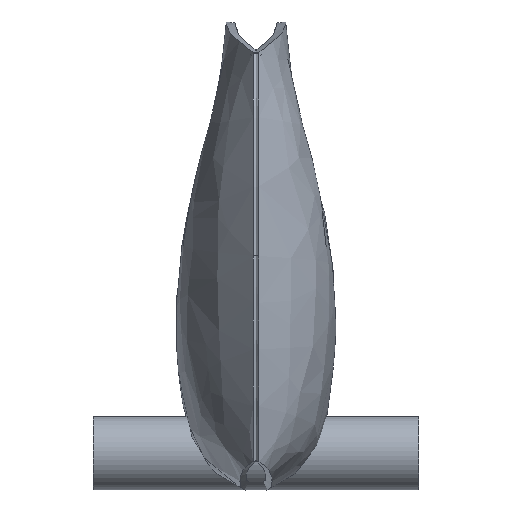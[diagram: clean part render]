
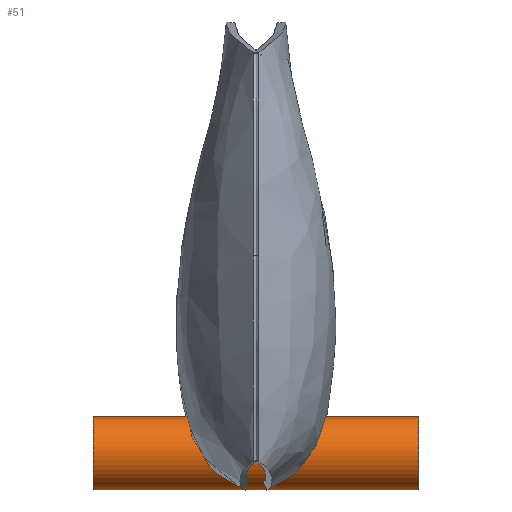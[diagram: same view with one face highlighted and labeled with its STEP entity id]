
A CAD part, left-side view. The second image highlights one B-rep face of the part: STEP entity #51.
In plain terms, the highlighted free-form (B-spline) face has degree [2, 1] with [5, 2] control points.
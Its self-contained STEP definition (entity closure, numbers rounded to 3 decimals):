
#11=(
BOUNDED_CURVE()
B_SPLINE_CURVE(2,(#9895,#9896,#9897,#9898,#9899),.UNSPECIFIED.,.F.,.F.)
B_SPLINE_CURVE_WITH_KNOTS((3,2,3),(0.,59.022,118.044),
 .UNSPECIFIED.)
CURVE()
GEOMETRIC_REPRESENTATION_ITEM()
RATIONAL_B_SPLINE_CURVE((1.,0.707,1.,0.707,1.))
REPRESENTATION_ITEM('')
);
#12=(
BOUNDED_CURVE()
B_SPLINE_CURVE(1,(#9900,#9901),.UNSPECIFIED.,.F.,.F.)
B_SPLINE_CURVE_WITH_KNOTS((2,2),(0.,337.834),.UNSPECIFIED.)
CURVE()
GEOMETRIC_REPRESENTATION_ITEM()
RATIONAL_B_SPLINE_CURVE((1.,1.))
REPRESENTATION_ITEM('')
);
#13=(
BOUNDED_CURVE()
B_SPLINE_CURVE(2,(#9902,#9903,#9904,#9905,#9906),.UNSPECIFIED.,.F.,.F.)
B_SPLINE_CURVE_WITH_KNOTS((3,2,3),(0.,59.022,118.044),
 .UNSPECIFIED.)
CURVE()
GEOMETRIC_REPRESENTATION_ITEM()
RATIONAL_B_SPLINE_CURVE((1.,0.707,1.,0.707,1.))
REPRESENTATION_ITEM('')
);
#14=(
BOUNDED_CURVE()
B_SPLINE_CURVE(1,(#9907,#9908),.UNSPECIFIED.,.F.,.F.)
B_SPLINE_CURVE_WITH_KNOTS((2,2),(0.,337.834),.UNSPECIFIED.)
CURVE()
GEOMETRIC_REPRESENTATION_ITEM()
RATIONAL_B_SPLINE_CURVE((1.,1.))
REPRESENTATION_ITEM('')
);
#19=(
BOUNDED_SURFACE()
B_SPLINE_SURFACE(2,1,((#9869,#9870),(#9871,#9872),(#9873,#9874),(#9875,
#9876),(#9877,#9878)),.UNSPECIFIED.,.F.,.F.,.F.)
B_SPLINE_SURFACE_WITH_KNOTS((3,2,3),(2,2),(0.,59.022,118.044),
(0.,337.834),.UNSPECIFIED.)
GEOMETRIC_REPRESENTATION_ITEM()
RATIONAL_B_SPLINE_SURFACE(((1.,1.),(0.707,0.707),
(1.,1.),(0.707,0.707),(1.,1.)))
REPRESENTATION_ITEM('')
SURFACE()
);
#51=ADVANCED_FACE('',(#75),#19,.T.);
#75=FACE_OUTER_BOUND('',#99,.T.);
#99=EDGE_LOOP('',(#199,#200,#201,#202));
#199=ORIENTED_EDGE('',*,*,#262,.T.);
#200=ORIENTED_EDGE('',*,*,#261,.F.);
#201=ORIENTED_EDGE('',*,*,#260,.F.);
#202=ORIENTED_EDGE('',*,*,#259,.T.);
#259=EDGE_CURVE('',#345,#347,#11,.T.);
#260=EDGE_CURVE('',#345,#346,#12,.T.);
#261=EDGE_CURVE('',#346,#348,#13,.T.);
#262=EDGE_CURVE('',#347,#348,#14,.T.);
#345=VERTEX_POINT('',#9891);
#346=VERTEX_POINT('',#9892);
#347=VERTEX_POINT('',#9893);
#348=VERTEX_POINT('',#9894);
#9869=CARTESIAN_POINT('',(15678.526,-2216.437,40.404));
#9870=CARTESIAN_POINT('',(15678.526,-2396.437,40.404));
#9871=CARTESIAN_POINT('',(15658.331,-2216.437,40.404));
#9872=CARTESIAN_POINT('',(15658.331,-2396.437,40.404));
#9873=CARTESIAN_POINT('',(15658.331,-2216.437,20.209));
#9874=CARTESIAN_POINT('',(15658.331,-2396.437,20.209));
#9875=CARTESIAN_POINT('',(15658.331,-2216.437,0.015));
#9876=CARTESIAN_POINT('',(15658.331,-2396.437,0.015));
#9877=CARTESIAN_POINT('',(15678.526,-2216.437,0.015));
#9878=CARTESIAN_POINT('',(15678.526,-2396.437,0.015));
#9891=CARTESIAN_POINT('',(15678.526,-2216.437,40.404));
#9892=CARTESIAN_POINT('',(15678.526,-2396.437,40.404));
#9893=CARTESIAN_POINT('',(15678.526,-2216.437,0.015));
#9894=CARTESIAN_POINT('',(15678.526,-2396.437,0.015));
#9895=CARTESIAN_POINT('',(15678.526,-2216.437,40.404));
#9896=CARTESIAN_POINT('',(15658.331,-2216.437,40.404));
#9897=CARTESIAN_POINT('',(15658.331,-2216.437,20.209));
#9898=CARTESIAN_POINT('',(15658.331,-2216.437,0.015));
#9899=CARTESIAN_POINT('',(15678.526,-2216.437,0.015));
#9900=CARTESIAN_POINT('',(15678.526,-2216.437,40.404));
#9901=CARTESIAN_POINT('',(15678.526,-2396.437,40.404));
#9902=CARTESIAN_POINT('',(15678.526,-2396.437,40.404));
#9903=CARTESIAN_POINT('',(15658.331,-2396.437,40.404));
#9904=CARTESIAN_POINT('',(15658.331,-2396.437,20.209));
#9905=CARTESIAN_POINT('',(15658.331,-2396.437,0.015));
#9906=CARTESIAN_POINT('',(15678.526,-2396.437,0.015));
#9907=CARTESIAN_POINT('',(15678.526,-2216.437,0.015));
#9908=CARTESIAN_POINT('',(15678.526,-2396.437,0.015));
